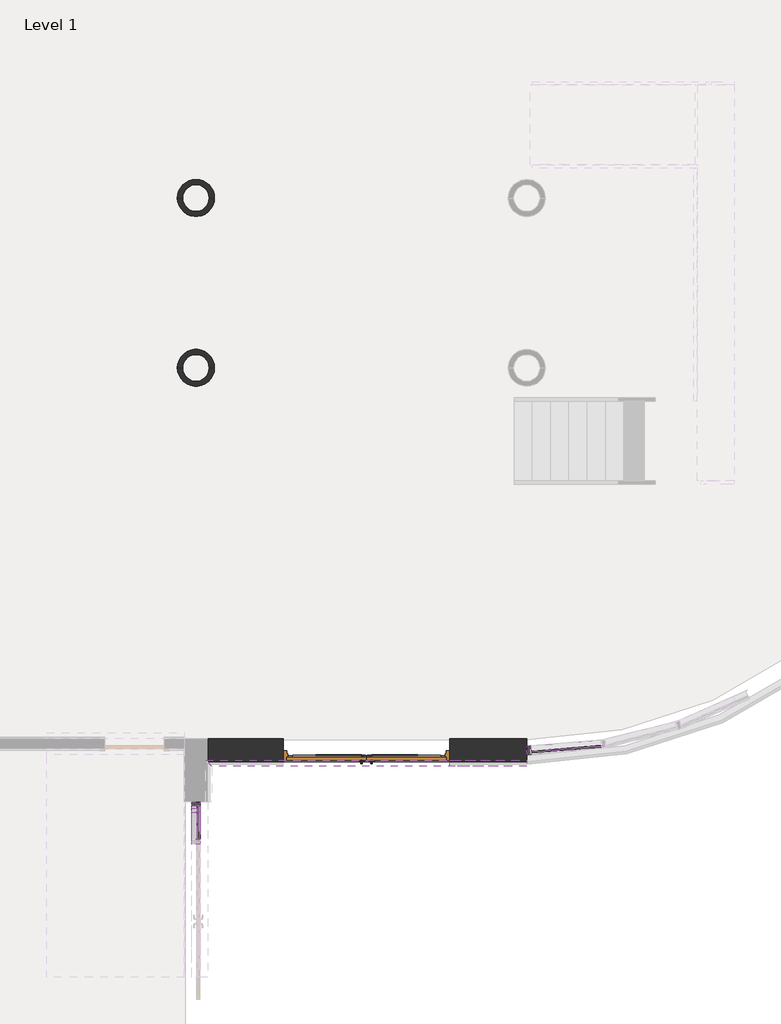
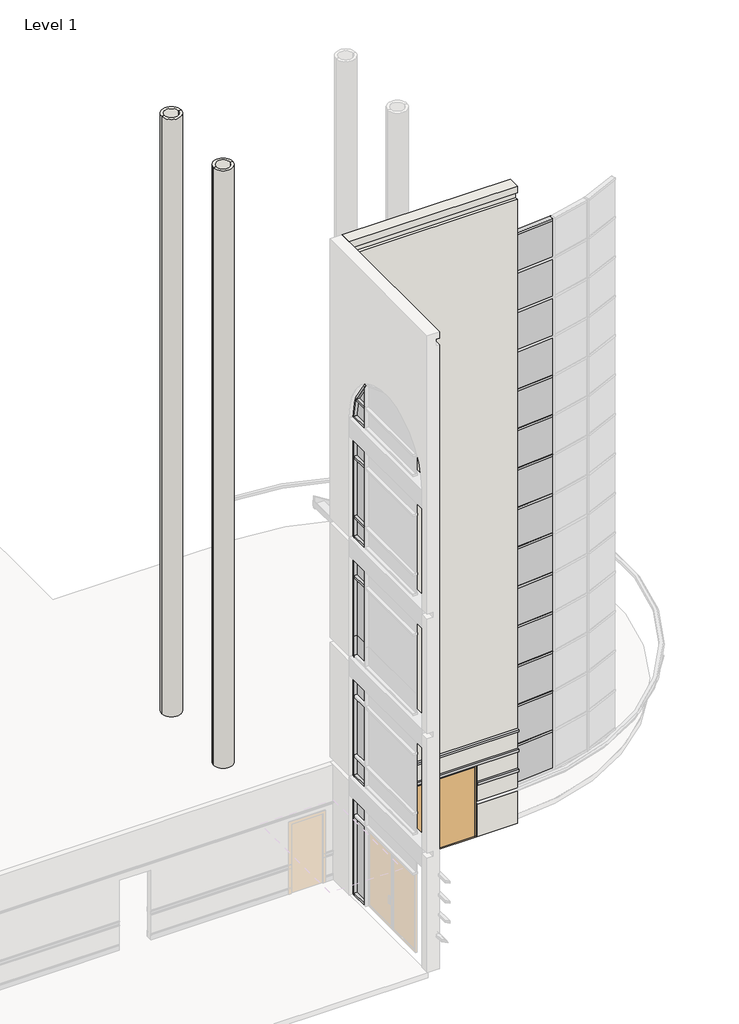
# One storey, part 4 of 20: 50 members, 27 plates, 5 walls, 3 proxies, 1 door.
"""IFC4 building model written with IfcOpenShell, lengths in millimetres."""

from ifc_helpers import new_model, si_unit, point, frame, frame_2d, origin, origin_with_axes, place, context, project, spatial, polyline, circle_curve, trimmed, segment, composite_curve, outline, extrude, faceted_brep, transform, mapped, element, save
from components import door_381a2cf9, member_6fd4d727, member_2e3765b8, member_e2a7e38a, member_ee409385, member_47a645d3, member_53d1b195, member_b7f7ac7a, member_94fbf6e3, member_aaa03826, member_dad99500, member_2fae0574, member_0b7646a3, system_panel_glazed_e4675ec4, system_panel_glazed_b699a21d, system_panel_glazed_302a988a, system_panel_glazed_4c725cf6, system_panel_glazed_f9269b4e, system_panel_glazed_1e7caf01, system_panel_glazed_6cb61a0e, system_panel_glazed_2dcc93e6, system_panel_glazed_8fb97314

model = new_model("IFC4")

# Units and contexts
model_context = context("Model", 3, world=origin())
ifc_project = project(units=[si_unit("LENGTHUNIT", "METRE", prefix="MILLI")], contexts=[model_context])

# Site, building, storey
site = spatial("IfcSite", under=ifc_project)
building = spatial("IfcBuilding", under=site)
storey = spatial("IfcBuildingStorey", under=building, Name="Level 1", Elevation=0.0)

# Proxies
placement = place(None, origin())
element("IfcBuildingElementProxy", 1, Name="Reveals", at=placement, inside=storey, context=model_context, shape_type="SweptSolid", body=[
    extrude(outline(polyline([(13127.8089721, -9887.6851681), (13035.7339721, -9795.6101681), (14220.0089721, -9795.6101681), (14220.0089721, -9887.6851681), (13127.8089721, -9887.6851681)])), frame((0.0, 0.0, 1625.6), z_axis=(0.0, 0.0, 1.0), x_axis=(1.0, 0.0, 0.0)), (0.0, 0.0, 1.0), 67.7333333),
    extrude(outline(polyline([(16760.0089721, -9887.6851681), (16760.0089721, -9795.6101681), (17937.9339721, -9795.6101681), (17937.9339721, -9887.6851681), (16760.0089721, -9887.6851681)])), frame((0.0, 0.0, 1625.6), z_axis=(0.0, 0.0, 1.0), x_axis=(1.0, 0.0, 0.0)), (0.0, 0.0, 1.0), 67.7333333),
])
element("IfcBuildingElementProxy", 2, Name="Reveals", at=placement, inside=storey, context=model_context, shape_type="SweptSolid", body=[
    extrude(outline(polyline([(13127.8089721, -9887.6851681), (13035.7339721, -9795.6101681), (17937.9339721, -9795.6101681), (17937.9339721, -9887.6851681), (13127.8089721, -9887.6851681)])), frame((0.0, 0.0, 2235.2), z_axis=(0.0, 0.0, 1.0), x_axis=(1.0, 0.0, 0.0)), (0.0, 0.0, 1.0), 67.7333333),
])
element("IfcBuildingElementProxy", 3, Name="Reveals", at=placement, inside=storey, context=model_context, shape_type="SweptSolid", body=[
    extrude(outline(polyline([(13127.8089721, -9887.6851681), (13035.7339721, -9795.6101681), (17937.9339721, -9795.6101681), (17937.9339721, -9887.6851681), (13127.8089721, -9887.6851681)])), frame((0.0, 0.0, 2844.8), z_axis=(0.0, 0.0, 1.0), x_axis=(1.0, 0.0, 0.0)), (0.0, 0.0, 1.0), 67.7333333),
])

# Door
door_shape = door_381a2cf9(model_context)
element("IfcDoor", 4, ObjectType="Door-Exterior-Double : 96\" x 84\"", at=placement, inside=storey, context=model_context, shape_type="MappedRepresentation", body=[
    mapped(door_shape, transform((15490.0089721, -9638.4476681, 0.0), x_axis=(1.0, 0.0, 0.0), y_axis=(0.0, 1.0, 0.0), z_axis=(0.0, 0.0, 1.0))),
])

# Members
member_shape = member_6fd4d727(model_context)
element("IfcMember", 5, ObjectType="Rectangular Mullion : 2.5\" x 5\" rectangular", at=placement, inside=storey, context=model_context, shape_type="MappedRepresentation", body=[
    mapped(member_shape, transform((18001.2170874, -9639.5538796, 17983.2), x_axis=(0.0, 0.0, 1.0), y_axis=(-0.08257934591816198, 0.9965844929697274, 0.0), z_axis=(-0.9965844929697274, -0.08257934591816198, 0.0))),
])
member_2_shape = member_2e3765b8(model_context)
element("IfcMember", 6, ObjectType="Rectangular Mullion : 2.5\" x 5\" rectangular", at=placement, inside=storey, context=model_context, shape_type="MappedRepresentation", body=[
    mapped(member_2_shape, transform((18001.2170874, -9639.5538796, 2298.7), x_axis=(0.0, 0.0, 1.0), y_axis=(-0.08257934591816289, 0.9965844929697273, 0.0), z_axis=(-0.9965844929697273, -0.08257934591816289, 0.0))),
])
element("IfcMember", 7, ObjectType="Rectangular Mullion : 2.5\" x 5\" rectangular", at=placement, inside=storey, context=model_context, shape_type="MappedRepresentation", body=[
    mapped(member_2_shape, transform((18001.2170874, -9639.5538796, 3505.2), x_axis=(0.0, 0.0, 1.0), y_axis=(-0.08257934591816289, 0.9965844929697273, 0.0), z_axis=(-0.9965844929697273, -0.08257934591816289, 0.0))),
])
element("IfcMember", 8, ObjectType="Rectangular Mullion : 2.5\" x 5\" rectangular", at=placement, inside=storey, context=model_context, shape_type="MappedRepresentation", body=[
    mapped(member_2_shape, transform((18001.2170874, -9639.5538796, 4711.7), x_axis=(0.0, 0.0, 1.0), y_axis=(-0.08257934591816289, 0.9965844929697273, 0.0), z_axis=(-0.9965844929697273, -0.08257934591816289, 0.0))),
])
element("IfcMember", 9, ObjectType="Rectangular Mullion : 2.5\" x 5\" rectangular", at=placement, inside=storey, context=model_context, shape_type="MappedRepresentation", body=[
    mapped(member_2_shape, transform((18001.2170874, -9639.5538796, 5918.2), x_axis=(0.0, 0.0, 1.0), y_axis=(-0.08257934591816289, 0.9965844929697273, 0.0), z_axis=(-0.9965844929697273, -0.08257934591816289, 0.0))),
])
element("IfcMember", 10, ObjectType="Rectangular Mullion : 2.5\" x 5\" rectangular", at=placement, inside=storey, context=model_context, shape_type="MappedRepresentation", body=[
    mapped(member_2_shape, transform((18001.2170874, -9639.5538796, 7124.7), x_axis=(0.0, 0.0, 1.0), y_axis=(-0.08257934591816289, 0.9965844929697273, 0.0), z_axis=(-0.9965844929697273, -0.08257934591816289, 0.0))),
])
element("IfcMember", 11, ObjectType="Rectangular Mullion : 2.5\" x 5\" rectangular", at=placement, inside=storey, context=model_context, shape_type="MappedRepresentation", body=[
    mapped(member_2_shape, transform((18001.2170874, -9639.5538796, 8331.2), x_axis=(0.0, 0.0, 1.0), y_axis=(-0.08257934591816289, 0.9965844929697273, 0.0), z_axis=(-0.9965844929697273, -0.08257934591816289, 0.0))),
])
element("IfcMember", 12, ObjectType="Rectangular Mullion : 2.5\" x 5\" rectangular", at=placement, inside=storey, context=model_context, shape_type="MappedRepresentation", body=[
    mapped(member_2_shape, transform((18001.2170874, -9639.5538796, 9537.7), x_axis=(0.0, 0.0, 1.0), y_axis=(-0.08257934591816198, 0.9965844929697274, 0.0), z_axis=(-0.9965844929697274, -0.08257934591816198, 0.0))),
])
element("IfcMember", 13, ObjectType="Rectangular Mullion : 2.5\" x 5\" rectangular", at=placement, inside=storey, context=model_context, shape_type="MappedRepresentation", body=[
    mapped(member_2_shape, transform((18001.2170874, -9639.5538796, 10744.2), x_axis=(0.0, 0.0, 1.0), y_axis=(-0.08257934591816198, 0.9965844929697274, 0.0), z_axis=(-0.9965844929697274, -0.08257934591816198, 0.0))),
])
element("IfcMember", 14, ObjectType="Rectangular Mullion : 2.5\" x 5\" rectangular", at=placement, inside=storey, context=model_context, shape_type="MappedRepresentation", body=[
    mapped(member_2_shape, transform((18001.2170874, -9639.5538796, 11950.7), x_axis=(0.0, 0.0, 1.0), y_axis=(-0.08257934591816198, 0.9965844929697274, 0.0), z_axis=(-0.9965844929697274, -0.08257934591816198, 0.0))),
])
element("IfcMember", 15, ObjectType="Rectangular Mullion : 2.5\" x 5\" rectangular", at=placement, inside=storey, context=model_context, shape_type="MappedRepresentation", body=[
    mapped(member_2_shape, transform((18001.2170874, -9639.5538796, 13157.2), x_axis=(0.0, 0.0, 1.0), y_axis=(-0.08257934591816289, 0.9965844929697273, 0.0), z_axis=(-0.9965844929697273, -0.08257934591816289, 0.0))),
])
member_3_shape = member_e2a7e38a(model_context)
element("IfcMember", 16, ObjectType="Rectangular Mullion : 2.5\" x 5\" rectangular", at=placement, inside=storey, context=model_context, shape_type="MappedRepresentation", body=[
    mapped(member_3_shape, transform((17937.9339721, -9644.7976681, 1092.2), x_axis=(-0.9965844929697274, -0.08257934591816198, 0.0), y_axis=(-0.08257934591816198, 0.9965844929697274, 0.0), z_axis=(0.0, 0.0, -1.0))),
])
element("IfcMember", 17, ObjectType="Rectangular Mullion : 2.5\" x 5\" rectangular", at=placement, inside=storey, context=model_context, shape_type="MappedRepresentation", body=[
    mapped(member_3_shape, transform((17937.9339721, -9644.7976681, 2298.7), x_axis=(-0.9965844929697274, -0.08257934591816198, 0.0), y_axis=(-0.08257934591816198, 0.9965844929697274, 0.0), z_axis=(0.0, 0.0, -1.0))),
])
element("IfcMember", 18, ObjectType="Rectangular Mullion : 2.5\" x 5\" rectangular", at=placement, inside=storey, context=model_context, shape_type="MappedRepresentation", body=[
    mapped(member_3_shape, transform((17937.9339721, -9644.7976681, 3505.2), x_axis=(-0.9965844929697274, -0.08257934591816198, 0.0), y_axis=(-0.08257934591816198, 0.9965844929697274, 0.0), z_axis=(0.0, 0.0, -1.0))),
])
element("IfcMember", 19, ObjectType="Rectangular Mullion : 2.5\" x 5\" rectangular", at=placement, inside=storey, context=model_context, shape_type="MappedRepresentation", body=[
    mapped(member_3_shape, transform((17937.9339721, -9644.7976681, 4711.7), x_axis=(-0.9965844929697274, -0.08257934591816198, 0.0), y_axis=(-0.08257934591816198, 0.9965844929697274, 0.0), z_axis=(0.0, 0.0, -1.0))),
])
element("IfcMember", 20, ObjectType="Rectangular Mullion : 2.5\" x 5\" rectangular", at=placement, inside=storey, context=model_context, shape_type="MappedRepresentation", body=[
    mapped(member_3_shape, transform((17937.9339721, -9644.7976681, 5918.2), x_axis=(-0.9965844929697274, -0.08257934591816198, 0.0), y_axis=(-0.08257934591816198, 0.9965844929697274, 0.0), z_axis=(0.0, 0.0, -1.0))),
])
element("IfcMember", 21, ObjectType="Rectangular Mullion : 2.5\" x 5\" rectangular", at=placement, inside=storey, context=model_context, shape_type="MappedRepresentation", body=[
    mapped(member_3_shape, transform((17937.9339721, -9644.7976681, 7124.7), x_axis=(-0.9965844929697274, -0.08257934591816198, 0.0), y_axis=(-0.08257934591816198, 0.9965844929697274, 0.0), z_axis=(0.0, 0.0, -1.0))),
])
element("IfcMember", 22, ObjectType="Rectangular Mullion : 2.5\" x 5\" rectangular", at=placement, inside=storey, context=model_context, shape_type="MappedRepresentation", body=[
    mapped(member_3_shape, transform((17937.9339721, -9644.7976681, 8331.2), x_axis=(-0.9965844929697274, -0.08257934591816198, 0.0), y_axis=(-0.08257934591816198, 0.9965844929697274, 0.0), z_axis=(0.0, 0.0, -1.0))),
])
element("IfcMember", 23, ObjectType="Rectangular Mullion : 2.5\" x 5\" rectangular", at=placement, inside=storey, context=model_context, shape_type="MappedRepresentation", body=[
    mapped(member_3_shape, transform((17937.9339721, -9644.7976681, 9537.7), x_axis=(-0.9965844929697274, -0.08257934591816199, 0.0), y_axis=(-0.08257934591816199, 0.9965844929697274, 0.0), z_axis=(0.0, 0.0, -1.0))),
])
element("IfcMember", 24, ObjectType="Rectangular Mullion : 2.5\" x 5\" rectangular", at=placement, inside=storey, context=model_context, shape_type="MappedRepresentation", body=[
    mapped(member_3_shape, transform((17937.9339721, -9644.7976681, 10744.2), x_axis=(-0.9965844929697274, -0.08257934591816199, 0.0), y_axis=(-0.08257934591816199, 0.9965844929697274, 0.0), z_axis=(0.0, 0.0, -1.0))),
])
element("IfcMember", 25, ObjectType="Rectangular Mullion : 2.5\" x 5\" rectangular", at=placement, inside=storey, context=model_context, shape_type="MappedRepresentation", body=[
    mapped(member_3_shape, transform((17937.9339721, -9644.7976681, 11950.7), x_axis=(-0.9965844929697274, -0.08257934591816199, 0.0), y_axis=(-0.08257934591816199, 0.9965844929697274, 0.0), z_axis=(0.0, 0.0, -1.0))),
])
element("IfcMember", 26, ObjectType="Rectangular Mullion : 2.5\" x 5\" rectangular", at=placement, inside=storey, context=model_context, shape_type="MappedRepresentation", body=[
    mapped(member_3_shape, transform((17937.9339721, -9644.7976681, 13157.2), x_axis=(-0.9965844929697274, -0.08257934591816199, 0.0), y_axis=(-0.08257934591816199, 0.9965844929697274, 0.0), z_axis=(0.0, 0.0, -1.0))),
])
element("IfcMember", 27, ObjectType="Rectangular Mullion : 2.5\" x 5\" rectangular", at=placement, inside=storey, context=model_context, shape_type="MappedRepresentation", body=[
    mapped(member_3_shape, transform((17937.9339721, -9644.7976681, 14363.7), x_axis=(-0.9965844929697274, -0.08257934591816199, 0.0), y_axis=(-0.08257934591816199, 0.9965844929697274, 0.0), z_axis=(0.0, 0.0, -1.0))),
])
element("IfcMember", 28, ObjectType="Rectangular Mullion : 2.5\" x 5\" rectangular", at=placement, inside=storey, context=model_context, shape_type="MappedRepresentation", body=[
    mapped(member_3_shape, transform((17937.9339721, -9644.7976681, 15570.2), x_axis=(-0.9965844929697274, -0.08257934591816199, 0.0), y_axis=(-0.08257934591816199, 0.9965844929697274, 0.0), z_axis=(0.0, 0.0, -1.0))),
])
element("IfcMember", 29, ObjectType="Rectangular Mullion : 2.5\" x 5\" rectangular", at=placement, inside=storey, context=model_context, shape_type="MappedRepresentation", body=[
    mapped(member_3_shape, transform((17937.9339721, -9644.7976681, 16776.7), x_axis=(-0.9965844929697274, -0.08257934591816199, 0.0), y_axis=(-0.08257934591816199, 0.9965844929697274, 0.0), z_axis=(0.0, 0.0, -1.0))),
])
member_4_shape = member_ee409385(model_context)
element("IfcMember", 30, ObjectType="Rectangular Mullion : 2.5\" x 5\" rectangular", at=placement, inside=storey, context=model_context, shape_type="MappedRepresentation", body=[
    mapped(member_4_shape, transform((12884.9214721, -10430.6101681, 2438.4), x_axis=(0.0, 1.0, 0.0), y_axis=(-1.0, 0.0, 0.0), z_axis=(0.0, 0.0, 1.0))),
])
member_5_shape = member_47a645d3(model_context)
element("IfcMember", 31, ObjectType="Rectangular Mullion : 2.5\" x 5\" rectangular", at=placement, inside=storey, context=model_context, shape_type="MappedRepresentation", body=[
    mapped(member_5_shape, transform((12884.9214721, -11008.4601681, 14630.4), x_axis=(0.0, 0.0, 1.0), y_axis=(-1.0, 0.0, 0.0), z_axis=(0.0, -1.0, 0.0))),
])
member_6_shape = member_53d1b195(model_context)
element("IfcMember", 32, ObjectType="Rectangular Mullion : 2.5\" x 5\" rectangular", at=placement, inside=storey, context=model_context, shape_type="MappedRepresentation", body=[
    mapped(member_6_shape, transform((12884.9214721, -11008.4601681, 15240.0), x_axis=(0.0, 0.0, 1.0), y_axis=(-1.0, 0.0, 0.0), z_axis=(0.0, -1.0, 0.0))),
])
member_7_shape = member_b7f7ac7a(model_context)
element("IfcMember", 33, ObjectType="Rectangular Mullion : 2.5\" x 5\" rectangular", at=placement, inside=storey, context=model_context, shape_type="MappedRepresentation", body=[
    mapped(member_7_shape, transform((12884.9214721, -10535.2009928, 15240.0), x_axis=(0.0, 0.9428090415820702, 0.33333333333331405), y_axis=(-1.0, 0.0, 0.0), z_axis=(0.0, -0.333333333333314, 0.9428090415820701))),
])
member_8_shape = member_94fbf6e3(model_context)
element("IfcMember", 34, ObjectType="Rectangular Mullion : 2.5\" x 5\" rectangular", at=placement, inside=storey, context=model_context, shape_type="MappedRepresentation", body=[
    mapped(member_8_shape, transform((12884.9214721, -11040.2101681, 15993.5070391), x_axis=(0.0, 0.6666666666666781, 0.7453559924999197), y_axis=(-1.0, 0.0, 0.0), z_axis=(0.0, -0.7453559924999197, 0.6666666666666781))),
])
member_9_shape = member_aaa03826(model_context)
element("IfcMember", 35, ObjectType="Rectangular Mullion : 2.5\" x 5\" rectangular", at=placement, inside=storey, context=model_context, shape_type="MappedRepresentation", body=[
    mapped(member_9_shape, transform((12884.9214721, -11008.4601681, 6705.6), x_axis=(0.0, 0.0, 1.0), y_axis=(-1.0, 0.0, 0.0), z_axis=(0.0, -1.0, 0.0))),
])
element("IfcMember", 36, ObjectType="Rectangular Mullion : 2.5\" x 5\" rectangular", at=placement, inside=storey, context=model_context, shape_type="MappedRepresentation", body=[
    mapped(member_9_shape, transform((12884.9214721, -11008.4601681, 3657.6), x_axis=(0.0, 0.0, 1.0), y_axis=(-1.0, 0.0, 0.0), z_axis=(0.0, -1.0, 0.0))),
])
element("IfcMember", 37, ObjectType="Rectangular Mullion : 2.5\" x 5\" rectangular", at=placement, inside=storey, context=model_context, shape_type="MappedRepresentation", body=[
    mapped(member_9_shape, transform((12884.9214721, -11008.4601681, 3048.0), x_axis=(0.0, 0.0, 1.0), y_axis=(-1.0, 0.0, 0.0), z_axis=(0.0, -1.0, 0.0))),
])
element("IfcMember", 38, ObjectType="Rectangular Mullion : 2.5\" x 5\" rectangular", at=placement, inside=storey, context=model_context, shape_type="MappedRepresentation", body=[
    mapped(member_9_shape, transform((12884.9214721, -11008.4601681, 9753.6), x_axis=(0.0, 0.0, 1.0), y_axis=(-1.0, 0.0, 0.0), z_axis=(0.0, -1.0, 0.0))),
])
element("IfcMember", 39, ObjectType="Rectangular Mullion : 2.5\" x 5\" rectangular", at=placement, inside=storey, context=model_context, shape_type="MappedRepresentation", body=[
    mapped(member_9_shape, transform((12884.9214721, -11008.4601681, 10363.2), x_axis=(0.0, 0.0, 1.0), y_axis=(-1.0, 0.0, 0.0), z_axis=(0.0, -1.0, 0.0))),
])
element("IfcMember", 40, ObjectType="Rectangular Mullion : 2.5\" x 5\" rectangular", at=placement, inside=storey, context=model_context, shape_type="MappedRepresentation", body=[
    mapped(member_9_shape, transform((12884.9214721, -11008.4601681, 10972.8), x_axis=(0.0, 0.0, 1.0), y_axis=(-1.0, 0.0, 0.0), z_axis=(0.0, -1.0, 0.0))),
])
element("IfcMember", 41, ObjectType="Rectangular Mullion : 2.5\" x 5\" rectangular", at=placement, inside=storey, context=model_context, shape_type="MappedRepresentation", body=[
    mapped(member_9_shape, transform((12884.9214721, -11008.4601681, 11582.4), x_axis=(0.0, 0.0, 1.0), y_axis=(-1.0, 0.0, 0.0), z_axis=(0.0, -1.0, 0.0))),
])
element("IfcMember", 42, ObjectType="Rectangular Mullion : 2.5\" x 5\" rectangular", at=placement, inside=storey, context=model_context, shape_type="MappedRepresentation", body=[
    mapped(member_9_shape, transform((12884.9214721, -11008.4601681, 13411.2), x_axis=(0.0, 0.0, 1.0), y_axis=(-1.0, 0.0, 0.0), z_axis=(0.0, -1.0, 0.0))),
])
element("IfcMember", 43, ObjectType="Rectangular Mullion : 2.5\" x 5\" rectangular", at=placement, inside=storey, context=model_context, shape_type="MappedRepresentation", body=[
    mapped(member_9_shape, transform((12884.9214721, -11008.4601681, 14020.8), x_axis=(0.0, 0.0, 1.0), y_axis=(-1.0, 0.0, 0.0), z_axis=(0.0, -1.0, 0.0))),
])
member_10_shape = member_dad99500(model_context)
element("IfcMember", 44, ObjectType="Rectangular Mullion : 2.5\" x 5\" rectangular", at=placement, inside=storey, context=model_context, shape_type="MappedRepresentation", body=[
    mapped(member_10_shape, transform((12884.9214721, -10430.6101681, 11582.4), x_axis=(0.0, 1.0, 0.0), y_axis=(-1.0, 0.0, 0.0), z_axis=(0.0, 0.0, 1.0))),
])
element("IfcMember", 45, ObjectType="Rectangular Mullion : 2.5\" x 5\" rectangular", at=placement, inside=storey, context=model_context, shape_type="MappedRepresentation", body=[
    mapped(member_10_shape, transform((12884.9214721, -10430.6101681, 4267.2), x_axis=(0.0, 1.0, 0.0), y_axis=(-1.0, 0.0, 0.0), z_axis=(0.0, 0.0, 1.0))),
])
member_11_shape = member_2fae0574(model_context)
element("IfcMember", 46, ObjectType="Rectangular Mullion : 2.5\" x 5\" rectangular", at=placement, inside=storey, context=model_context, shape_type="MappedRepresentation", body=[
    mapped(member_11_shape, transform((12884.9214721, -10430.6101681, 13411.2), x_axis=(0.0, 1.0, 0.0), y_axis=(-1.0, 0.0, 0.0), z_axis=(0.0, 0.0, 1.0))),
])
element("IfcMember", 47, ObjectType="Rectangular Mullion : 2.5\" x 5\" rectangular", at=placement, inside=storey, context=model_context, shape_type="MappedRepresentation", body=[
    mapped(member_11_shape, transform((12884.9214721, -10430.6101681, 6096.0), x_axis=(0.0, 1.0, 0.0), y_axis=(-1.0, 0.0, 0.0), z_axis=(0.0, 0.0, 1.0))),
])
element("IfcMember", 48, ObjectType="Rectangular Mullion : 2.5\" x 5\" rectangular", at=placement, inside=storey, context=model_context, shape_type="MappedRepresentation", body=[
    mapped(member_10_shape, transform((12884.9214721, -10430.6101681, 14052.55), x_axis=(0.0, 1.0, 0.0), y_axis=(-1.0, 0.0, 0.0), z_axis=(0.0, 0.0, 1.0))),
])
element("IfcMember", 49, ObjectType="Rectangular Mullion : 2.5\" x 5\" rectangular", at=placement, inside=storey, context=model_context, shape_type="MappedRepresentation", body=[
    mapped(member_10_shape, transform((12884.9214721, -10430.6101681, 10394.95), x_axis=(0.0, 1.0, 0.0), y_axis=(-1.0, 0.0, 0.0), z_axis=(0.0, 0.0, 1.0))),
])
element("IfcMember", 50, ObjectType="Rectangular Mullion : 2.5\" x 5\" rectangular", at=placement, inside=storey, context=model_context, shape_type="MappedRepresentation", body=[
    mapped(member_10_shape, transform((12884.9214721, -10430.6101681, 6737.35), x_axis=(0.0, 1.0, 0.0), y_axis=(-1.0, 0.0, 0.0), z_axis=(0.0, 0.0, 1.0))),
])
element("IfcMember", 51, ObjectType="Rectangular Mullion : 2.5\" x 5\" rectangular", at=placement, inside=storey, context=model_context, shape_type="MappedRepresentation", body=[
    mapped(member_10_shape, transform((12884.9214721, -10430.6101681, 3079.75), x_axis=(0.0, 1.0, 0.0), y_axis=(-1.0, 0.0, 0.0), z_axis=(0.0, 0.0, 1.0))),
])
element("IfcMember", 52, ObjectType="Rectangular Mullion : 2.5\" x 5\" rectangular", at=placement, inside=storey, context=model_context, shape_type="MappedRepresentation", body=[
    mapped(member_10_shape, transform((12884.9214721, -10430.6101681, 7924.8), x_axis=(0.0, 1.0, 0.0), y_axis=(-1.0, 0.0, 0.0), z_axis=(0.0, 0.0, 1.0))),
])
element("IfcMember", 53, ObjectType="Rectangular Mullion : 2.5\" x 5\" rectangular", at=placement, inside=storey, context=model_context, shape_type="MappedRepresentation", body=[
    mapped(member_11_shape, transform((12884.9214721, -10430.6101681, 9753.6), x_axis=(0.0, 1.0, 0.0), y_axis=(-1.0, 0.0, 0.0), z_axis=(0.0, 0.0, 1.0))),
])
member_12_shape = member_0b7646a3(model_context)
element("IfcMember", 54, ObjectType="Rectangular Mullion : 2.5\" x 5\" rectangular", at=placement, inside=storey, context=model_context, shape_type="MappedRepresentation", body=[
    mapped(member_12_shape, transform((12884.9214721, -10494.1101681, 0.0), x_axis=(0.0, 0.0, -1.0), y_axis=(-1.0, 0.0, 0.0), z_axis=(0.0, 1.0, 0.0))),
])

# Plates
system_panel_glazed_shape = system_panel_glazed_e4675ec4(model_context)
element("IfcPlate", 55, ObjectType="System Panel : Glazed", at=placement, inside=storey, context=model_context, shape_type="MappedRepresentation", body=[
    mapped(system_panel_glazed_shape, transform((18541.2741154, -9594.8034782, 1155.7), x_axis=(-0.9965844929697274, -0.08257934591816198, 0.0), y_axis=(0.08257934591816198, -0.9965844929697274, 0.0), z_axis=(0.0, 0.0, 1.0))),
])
element("IfcPlate", 56, ObjectType="System Panel : Glazed", at=placement, inside=storey, context=model_context, shape_type="MappedRepresentation", body=[
    mapped(system_panel_glazed_shape, transform((18541.2741154, -9594.8034782, 16808.45), x_axis=(-0.9965844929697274, -0.08257934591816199, 0.0), y_axis=(0.08257934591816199, -0.9965844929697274, 0.0), z_axis=(0.0, 0.0, 1.0))),
])
system_panel_glazed_2_shape = system_panel_glazed_b699a21d(model_context)
element("IfcPlate", 57, ObjectType="System Panel : Glazed", at=placement, inside=storey, context=model_context, shape_type="MappedRepresentation", body=[
    mapped(system_panel_glazed_2_shape, transform((18541.2741154, -9594.8034782, 2330.45), x_axis=(-0.9965844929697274, -0.08257934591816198, 0.0), y_axis=(0.08257934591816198, -0.9965844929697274, 0.0), z_axis=(0.0, 0.0, 1.0))),
])
element("IfcPlate", 58, ObjectType="System Panel : Glazed", at=placement, inside=storey, context=model_context, shape_type="MappedRepresentation", body=[
    mapped(system_panel_glazed_2_shape, transform((18541.2741154, -9594.8034782, 3536.95), x_axis=(-0.9965844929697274, -0.08257934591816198, 0.0), y_axis=(0.08257934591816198, -0.9965844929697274, 0.0), z_axis=(0.0, 0.0, 1.0))),
])
element("IfcPlate", 59, ObjectType="System Panel : Glazed", at=placement, inside=storey, context=model_context, shape_type="MappedRepresentation", body=[
    mapped(system_panel_glazed_2_shape, transform((18541.2741154, -9594.8034782, 4743.45), x_axis=(-0.9965844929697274, -0.08257934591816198, 0.0), y_axis=(0.08257934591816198, -0.9965844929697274, 0.0), z_axis=(0.0, 0.0, 1.0))),
])
element("IfcPlate", 60, ObjectType="System Panel : Glazed", at=placement, inside=storey, context=model_context, shape_type="MappedRepresentation", body=[
    mapped(system_panel_glazed_2_shape, transform((18541.2741154, -9594.8034782, 5949.95), x_axis=(-0.9965844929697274, -0.08257934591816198, 0.0), y_axis=(0.08257934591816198, -0.9965844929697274, 0.0), z_axis=(0.0, 0.0, 1.0))),
])
element("IfcPlate", 61, ObjectType="System Panel : Glazed", at=placement, inside=storey, context=model_context, shape_type="MappedRepresentation", body=[
    mapped(system_panel_glazed_2_shape, transform((18541.2741154, -9594.8034782, 7156.45), x_axis=(-0.9965844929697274, -0.08257934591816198, 0.0), y_axis=(0.08257934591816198, -0.9965844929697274, 0.0), z_axis=(0.0, 0.0, 1.0))),
])
element("IfcPlate", 62, ObjectType="System Panel : Glazed", at=placement, inside=storey, context=model_context, shape_type="MappedRepresentation", body=[
    mapped(system_panel_glazed_2_shape, transform((18541.2741154, -9594.8034782, 8362.95), x_axis=(-0.9965844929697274, -0.08257934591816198, 0.0), y_axis=(0.08257934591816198, -0.9965844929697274, 0.0), z_axis=(0.0, 0.0, 1.0))),
])
element("IfcPlate", 63, ObjectType="System Panel : Glazed", at=placement, inside=storey, context=model_context, shape_type="MappedRepresentation", body=[
    mapped(system_panel_glazed_2_shape, transform((18541.2741154, -9594.8034782, 9569.45), x_axis=(-0.9965844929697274, -0.08257934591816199, 0.0), y_axis=(0.08257934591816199, -0.9965844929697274, 0.0), z_axis=(0.0, 0.0, 1.0))),
])
element("IfcPlate", 64, ObjectType="System Panel : Glazed", at=placement, inside=storey, context=model_context, shape_type="MappedRepresentation", body=[
    mapped(system_panel_glazed_2_shape, transform((18541.2741154, -9594.8034782, 10775.95), x_axis=(-0.9965844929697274, -0.08257934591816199, 0.0), y_axis=(0.08257934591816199, -0.9965844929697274, 0.0), z_axis=(0.0, 0.0, 1.0))),
])
element("IfcPlate", 65, ObjectType="System Panel : Glazed", at=placement, inside=storey, context=model_context, shape_type="MappedRepresentation", body=[
    mapped(system_panel_glazed_2_shape, transform((18541.2741154, -9594.8034782, 11982.45), x_axis=(-0.9965844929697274, -0.08257934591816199, 0.0), y_axis=(0.08257934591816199, -0.9965844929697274, 0.0), z_axis=(0.0, 0.0, 1.0))),
])
element("IfcPlate", 66, ObjectType="System Panel : Glazed", at=placement, inside=storey, context=model_context, shape_type="MappedRepresentation", body=[
    mapped(system_panel_glazed_2_shape, transform((18541.2741154, -9594.8034782, 13188.95), x_axis=(-0.9965844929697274, -0.08257934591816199, 0.0), y_axis=(0.08257934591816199, -0.9965844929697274, 0.0), z_axis=(0.0, 0.0, 1.0))),
])
element("IfcPlate", 67, ObjectType="System Panel : Glazed", at=placement, inside=storey, context=model_context, shape_type="MappedRepresentation", body=[
    mapped(system_panel_glazed_2_shape, transform((18541.2741154, -9594.8034782, 14395.45), x_axis=(-0.9965844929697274, -0.08257934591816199, 0.0), y_axis=(0.08257934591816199, -0.9965844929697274, 0.0), z_axis=(0.0, 0.0, 1.0))),
])
element("IfcPlate", 68, ObjectType="System Panel : Glazed", at=placement, inside=storey, context=model_context, shape_type="MappedRepresentation", body=[
    mapped(system_panel_glazed_2_shape, transform((18541.2741154, -9594.8034782, 15601.95), x_axis=(-0.9965844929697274, -0.08257934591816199, 0.0), y_axis=(0.08257934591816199, -0.9965844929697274, 0.0), z_axis=(0.0, 0.0, 1.0))),
])
system_panel_glazed_3_shape = system_panel_glazed_302a988a(model_context)
element("IfcPlate", 69, ObjectType="System Panel : Glazed", at=placement, inside=storey, context=model_context, shape_type="MappedRepresentation", body=[
    mapped(system_panel_glazed_3_shape, transform((12884.9214721, -10751.4279404, 14662.15), x_axis=(0.0, -1.0, 0.0), y_axis=(1.0, 0.0, 0.0), z_axis=(0.0, 0.0, 1.0))),
])
system_panel_glazed_4_shape = system_panel_glazed_4c725cf6(model_context)
element("IfcPlate", 70, ObjectType="System Panel : Glazed", at=placement, inside=storey, context=model_context, shape_type="MappedRepresentation", body=[
    mapped(system_panel_glazed_4_shape, transform((12884.9214721, -10811.5979095, 15271.75), x_axis=(0.0, -1.0, 0.0), y_axis=(1.0, 0.0, 0.0), z_axis=(0.0, 0.0, 1.0))),
])
system_panel_glazed_5_shape = system_panel_glazed_f9269b4e(model_context)
element("IfcPlate", 71, ObjectType="System Panel : Glazed", at=placement, inside=storey, context=model_context, shape_type="MappedRepresentation", body=[
    mapped(system_panel_glazed_5_shape, transform((12884.9214721, -10751.2851681, 3689.35), x_axis=(0.0, -1.0, 0.0), y_axis=(1.0, 0.0, 0.0), z_axis=(0.0, 0.0, 1.0))),
])
element("IfcPlate", 72, ObjectType="System Panel : Glazed", at=placement, inside=storey, context=model_context, shape_type="MappedRepresentation", body=[
    mapped(system_panel_glazed_5_shape, transform((12884.9214721, -10751.2851681, 11004.55), x_axis=(0.0, -1.0, 0.0), y_axis=(1.0, 0.0, 0.0), z_axis=(0.0, 0.0, 1.0))),
])
element("IfcPlate", 73, ObjectType="System Panel : Glazed", at=placement, inside=storey, context=model_context, shape_type="MappedRepresentation", body=[
    mapped(system_panel_glazed_5_shape, transform((12884.9214721, -10751.2851681, 2470.15), x_axis=(0.0, -1.0, 0.0), y_axis=(1.0, 0.0, 0.0), z_axis=(0.0, 0.0, 1.0))),
])
element("IfcPlate", 74, ObjectType="System Panel : Glazed", at=placement, inside=storey, context=model_context, shape_type="MappedRepresentation", body=[
    mapped(system_panel_glazed_5_shape, transform((12884.9214721, -10751.2851681, 6127.75), x_axis=(0.0, -1.0, 0.0), y_axis=(1.0, 0.0, 0.0), z_axis=(0.0, 0.0, 1.0))),
])
element("IfcPlate", 75, ObjectType="System Panel : Glazed", at=placement, inside=storey, context=model_context, shape_type="MappedRepresentation", body=[
    mapped(system_panel_glazed_5_shape, transform((12884.9214721, -10751.2851681, 9785.35), x_axis=(0.0, -1.0, 0.0), y_axis=(1.0, 0.0, 0.0), z_axis=(0.0, 0.0, 1.0))),
])
element("IfcPlate", 76, ObjectType="System Panel : Glazed", at=placement, inside=storey, context=model_context, shape_type="MappedRepresentation", body=[
    mapped(system_panel_glazed_5_shape, transform((12884.9214721, -10751.2851681, 13442.95), x_axis=(0.0, -1.0, 0.0), y_axis=(1.0, 0.0, 0.0), z_axis=(0.0, 0.0, 1.0))),
])
system_panel_glazed_6_shape = system_panel_glazed_1e7caf01(model_context)
element("IfcPlate", 77, ObjectType="System Panel : Glazed", at=placement, inside=storey, context=model_context, shape_type="MappedRepresentation", body=[
    mapped(system_panel_glazed_6_shape, transform((12884.9214721, -10751.2851681, 4298.95), x_axis=(0.0, -1.0, 0.0), y_axis=(1.0, 0.0, 0.0), z_axis=(0.0, 0.0, 1.0))),
])
element("IfcPlate", 78, ObjectType="System Panel : Glazed", at=placement, inside=storey, context=model_context, shape_type="MappedRepresentation", body=[
    mapped(system_panel_glazed_6_shape, transform((12884.9214721, -10751.2851681, 11614.15), x_axis=(0.0, -1.0, 0.0), y_axis=(1.0, 0.0, 0.0), z_axis=(0.0, 0.0, 1.0))),
])
system_panel_glazed_7_shape = system_panel_glazed_6cb61a0e(model_context)
element("IfcPlate", 79, ObjectType="System Panel : Glazed", at=placement, inside=storey, context=model_context, shape_type="MappedRepresentation", body=[
    mapped(system_panel_glazed_7_shape, transform((12884.9214721, -10751.2851681, 7924.8), x_axis=(0.0, -1.0, 0.0), y_axis=(1.0, 0.0, 0.0), z_axis=(0.0, 0.0, 1.0))),
])
system_panel_glazed_8_shape = system_panel_glazed_2dcc93e6(model_context)
element("IfcPlate", 80, ObjectType="System Panel : Glazed", at=placement, inside=storey, context=model_context, shape_type="MappedRepresentation", body=[
    mapped(system_panel_glazed_8_shape, transform((12884.9214721, -10751.2851681, 7346.95), x_axis=(0.0, -1.0, 0.0), y_axis=(1.0, 0.0, 0.0), z_axis=(0.0, 0.0, 1.0))),
])
system_panel_glazed_9_shape = system_panel_glazed_8fb97314(model_context)
element("IfcPlate", 81, ObjectType="System Panel : Glazed", at=placement, inside=storey, context=model_context, shape_type="MappedRepresentation", body=[
    mapped(system_panel_glazed_9_shape, transform((12884.9214721, -10751.2851681, 63.5), x_axis=(0.0, -1.0, 0.0), y_axis=(1.0, 0.0, 0.0), z_axis=(0.0, 0.0, 1.0))),
])

# Walls
element("IfcWall", 82, ObjectType="Exterior - Brick and CMU on MTL. Stud", at=placement, inside=storey, context=model_context, shape_type="Brep", body=[
    faceted_brep([(17937.9339721, -9821.0101681, 19507.2), (13061.1339721, -9821.0101681, 19507.2), (13061.1339721, -9821.0101681, 19304.0), (17937.9339721, -9821.0101681, 19304.0), (13061.1339721, -9821.0101681, 2302.9333333), (17937.9339721, -9821.0101681, 2302.9333333), (17937.9339721, -9821.0101681, 2844.8), (13061.1339721, -9821.0101681, 2844.8), (14220.0089721, -9821.0101681, 2235.2), (13061.1339721, -9821.0101681, 2235.2), (13061.1339721, -9821.0101681, 1693.3333333), (14220.0089721, -9821.0101681, 1693.3333333), (13061.1339721, -9821.0101681, 2912.5333333), (17937.9339721, -9821.0101681, 2912.5333333), (17937.9339721, -9821.0101681, 17983.2), (17937.9339721, -9821.0101681, 19100.8), (13061.1339721, -9821.0101681, 19100.8), (16760.0089721, -9821.0101681, 0.0), (17937.9339721, -9821.0101681, 0.0), (17937.9339721, -9821.0101681, 1016.0), (16760.0089721, -9821.0101681, 1016.0), (13061.1339721, -9821.0101681, 0.0), (14220.0089721, -9821.0101681, 0.0), (14220.0089721, -9821.0101681, 1016.0), (13061.1339721, -9821.0101681, 1016.0), (16760.0089721, -9821.0101681, 2235.2), (16760.0089721, -9821.0101681, 1693.3333333), (17937.9339721, -9821.0101681, 1693.3333333), (17937.9339721, -9821.0101681, 2235.2), (17937.9339721, -9821.0101681, 1625.6), (16760.0089721, -9821.0101681, 1625.6), (16760.0089721, -9821.0101681, 1085.85), (17937.9339721, -9821.0101681, 1085.85), (17937.9339721, -9821.0101681, 1092.2), (14220.0089721, -9821.0101681, 1625.6), (13061.1339721, -9821.0101681, 1625.6), (13061.1339721, -9821.0101681, 1085.85), (14220.0089721, -9821.0101681, 1085.85), (13061.1339721, -9468.5851681, 19507.2), (17937.9339721, -9468.5851681, 19507.2), (17937.9339721, -9468.5851681, 17983.2), (17937.9339721, -9468.5851681, 10972.8), (13061.1339721, -9468.5851681, 10972.8), (17937.9339721, -9468.5851681, 0.0), (16760.0089721, -9468.5851681, 0.0), (16760.0089721, -9468.5851681, 2235.2), (14220.0089721, -9468.5851681, 2235.2), (14220.0089721, -9468.5851681, 0.0), (13061.1339721, -9468.5851681, 0.0), (13061.1339721, -9468.5851681, 3505.2), (17937.9339721, -9468.5851681, 3505.2), (17937.9339721, -9468.5851681, 1092.2), (17937.9339721, -9468.5851681, 3657.6), (13061.1339721, -9468.5851681, 3657.6), (13061.1339721, -9468.5851681, 7162.8), (17937.9339721, -9468.5851681, 7162.8), (17937.9339721, -9468.5851681, 7315.2), (13061.1339721, -9468.5851681, 7315.2), (13061.1339721, -9468.5851681, 10820.4), (17937.9339721, -9468.5851681, 10820.4), (17937.9339721, -9728.9351681, 19304.0), (17937.9339721, -9728.9351681, 19100.8), (17937.9339721, -9795.6101681, 2912.5333333), (17937.9339721, -9795.6101681, 2844.8), (17937.9339721, -9795.6101681, 2302.9333333), (17937.9339721, -9795.6101681, 2235.2), (17937.9339721, -9795.6101681, 1693.3333333), (17937.9339721, -9795.6101681, 1625.6), (17937.9339721, -9728.9351681, 1085.85), (17937.9339721, -9728.9351681, 1016.0), (17937.9339721, -9728.9351681, 0.0), (17937.9339721, -9633.6851681, 3505.2), (17937.9339721, -9633.6851681, 3657.6), (17937.9339721, -9633.6851681, 7162.8), (17937.9339721, -9633.6851681, 7315.2), (17937.9339721, -9633.6851681, 10820.4), (17937.9339721, -9633.6851681, 10972.8), (16760.0089721, -9728.9351681, 0.0), (13061.1339721, -9728.9351681, 0.0), (14220.0089721, -9728.9351681, 0.0), (14220.0089721, -9795.6101681, 1693.3333333), (13061.1339721, -9795.6101681, 1693.3333333), (13061.1339721, -9795.6101681, 1625.6), (14220.0089721, -9795.6101681, 1625.6), (13061.1339721, -9795.6101681, 2302.9333333), (13061.1339721, -9795.6101681, 2235.2), (14220.0089721, -9795.6101681, 2235.2), (16760.0089721, -9795.6101681, 2235.2), (13061.1339721, -9795.6101681, 2912.5333333), (13061.1339721, -9795.6101681, 2844.8), (14220.0089721, -9728.9351681, 1085.85), (13061.1339721, -9728.9351681, 1085.85), (13061.1339721, -9728.9351681, 1016.0), (14220.0089721, -9728.9351681, 1016.0), (13061.1339721, -9728.9351681, 19304.0), (13061.1339721, -9728.9351681, 19100.8), (16760.0089721, -9728.9351681, 1016.0), (16760.0089721, -9728.9351681, 1085.85), (16760.0089721, -9795.6101681, 1625.6), (16760.0089721, -9795.6101681, 1693.3333333), (13061.1339721, -9633.6851681, 10972.8), (13061.1339721, -9633.6851681, 10820.4), (13061.1339721, -9633.6851681, 7315.2), (13061.1339721, -9633.6851681, 7162.8), (13061.1339721, -9633.6851681, 3657.6), (13061.1339721, -9633.6851681, 3505.2)], [[[0, 1, 2, 3]], [[4, 5, 6, 7]], [[8, 9, 10, 11]], [[12, 13, 14, 15, 16]], [[17, 18, 19, 20]], [[21, 22, 23, 24]], [[25, 26, 27, 28]], [[29, 30, 31, 32, 33]], [[34, 35, 36, 37]], [[38, 39, 40, 41, 42]], [[43, 44, 45, 46, 47, 48, 49, 50, 51]], [[52, 53, 54, 55]], [[56, 57, 58, 59]], [[39, 0, 3, 60, 61, 15, 14, 13, 62, 63, 6, 5, 64, 65, 28, 27, 66, 67, 29, 33, 32, 68, 69, 19, 18, 70, 43, 51, 50, 71, 72, 52, 55, 73, 74, 56, 59, 75, 76, 41, 40]], [[1, 0, 39, 38]], [[43, 70, 77, 44]], [[78, 48, 47, 79]], [[80, 81, 82, 83]], [[65, 64, 84, 85, 86, 87]], [[63, 62, 88, 89]], [[90, 91, 92, 93]], [[61, 60, 94, 95]], [[64, 5, 4, 84]], [[28, 65, 87, 25]], [[9, 8, 86, 85]], [[62, 13, 12, 88]], [[6, 63, 89, 7]], [[15, 61, 95, 16]], [[60, 3, 2, 94]], [[70, 18, 17, 77]], [[21, 78, 79, 22]], [[45, 44, 77, 17, 20, 96, 97, 31, 30, 98, 99, 26, 25, 87]], [[46, 45, 87, 86]], [[47, 46, 86, 8, 11, 80, 83, 34, 37, 90, 93, 23, 22, 79]], [[66, 99, 98, 67]], [[67, 98, 30, 29]], [[99, 66, 27, 26]], [[83, 82, 35, 34]], [[81, 80, 11, 10]], [[68, 97, 96, 69]], [[69, 96, 20, 19]], [[97, 68, 32, 31]], [[93, 92, 24, 23]], [[91, 90, 37, 36]], [[1, 38, 42, 100, 101, 58, 57, 102, 103, 54, 53, 104, 105, 49, 48, 78, 21, 24, 92, 91, 36, 35, 82, 81, 10, 9, 85, 84, 4, 7, 89, 88, 12, 16, 95, 94, 2]], [[50, 49, 105, 71]], [[53, 52, 72, 104]], [[72, 71, 105, 104]], [[55, 54, 103, 73]], [[57, 56, 74, 102]], [[74, 73, 103, 102]], [[101, 75, 59, 58]], [[76, 100, 42, 41]], [[75, 101, 100, 76]]]),
])
element("IfcWall", 83, ObjectType="Interior - 3 1/8\" Partition (1-hr)", at=placement, inside=storey, context=model_context, shape_type="SweptSolid", body=[
    extrude(outline(composite_curve([segment(polyline([(12681.7214721, -1208.8226681), (12602.3464721, -1208.8226681)]), True, "CONTINUOUS"), segment(trimmed(circle_curve(frame_2d((12884.9214721, -1208.8226681)), 282.575), [point((12602.3464721, -1208.8226681))], [point((13167.4964721, -1208.8226681))], False, "CARTESIAN"), True, "CONTINUOUS"), segment(polyline([(13167.4964721, -1208.8226681), (13088.1214721, -1208.8226681)]), True, "CONTINUOUS"), segment(trimmed(circle_curve(frame_2d((12884.9214721, -1208.8226681)), 203.2), [point((13088.1214721, -1208.8226681))], [point((12681.7214721, -1208.8226681))], True, "CARTESIAN"), True, "CONTINUOUS")], self_intersect=False)), origin_with_axes(), (0.0, 0.0, 1.0), 18288.0),
])
element("IfcWall", 84, ObjectType="Interior - 3 1/8\" Partition (1-hr)", at=placement, inside=storey, context=model_context, shape_type="SweptSolid", body=[
    extrude(outline(composite_curve([segment(polyline([(13088.1214721, -1208.8226681), (13167.4964721, -1208.8226681)]), True, "CONTINUOUS"), segment(trimmed(circle_curve(frame_2d((12884.9214721, -1208.8226681)), 282.575), [point((13167.4964721, -1208.8226681))], [point((12602.3464721, -1208.8226681))], False, "CARTESIAN"), True, "CONTINUOUS"), segment(polyline([(12602.3464721, -1208.8226681), (12681.7214721, -1208.8226681)]), True, "CONTINUOUS"), segment(trimmed(circle_curve(frame_2d((12884.9214721, -1208.8226681)), 203.2), [point((12681.7214721, -1208.8226681))], [point((13088.1214721, -1208.8226681))], True, "CARTESIAN"), True, "CONTINUOUS")], self_intersect=False)), origin_with_axes(), (0.0, 0.0, 1.0), 18288.0),
])
element("IfcWall", 85, ObjectType="Interior - 3 1/8\" Partition (1-hr)", at=placement, inside=storey, context=model_context, shape_type="SweptSolid", body=[
    extrude(outline(composite_curve([segment(polyline([(12681.7214721, -3802.7976681), (12602.3464721, -3802.7976681)]), True, "CONTINUOUS"), segment(trimmed(circle_curve(frame_2d((12884.9214721, -3802.7976681)), 282.575), [point((12602.3464721, -3802.7976681))], [point((13167.4964721, -3802.7976681))], False, "CARTESIAN"), True, "CONTINUOUS"), segment(polyline([(13167.4964721, -3802.7976681), (13088.1214721, -3802.7976681)]), True, "CONTINUOUS"), segment(trimmed(circle_curve(frame_2d((12884.9214721, -3802.7976681)), 203.2), [point((13088.1214721, -3802.7976681))], [point((12681.7214721, -3802.7976681))], True, "CARTESIAN"), True, "CONTINUOUS")], self_intersect=False)), origin_with_axes(), (0.0, 0.0, 1.0), 18288.0),
])
element("IfcWall", 86, ObjectType="Interior - 3 1/8\" Partition (1-hr)", at=placement, inside=storey, context=model_context, shape_type="SweptSolid", body=[
    extrude(outline(composite_curve([segment(polyline([(13088.1214721, -3802.7976681), (13167.4964721, -3802.7976681)]), True, "CONTINUOUS"), segment(trimmed(circle_curve(frame_2d((12884.9214721, -3802.7976681)), 282.575), [point((13167.4964721, -3802.7976681))], [point((12602.3464721, -3802.7976681))], False, "CARTESIAN"), True, "CONTINUOUS"), segment(polyline([(12602.3464721, -3802.7976681), (12681.7214721, -3802.7976681)]), True, "CONTINUOUS"), segment(trimmed(circle_curve(frame_2d((12884.9214721, -3802.7976681)), 203.2), [point((12681.7214721, -3802.7976681))], [point((13088.1214721, -3802.7976681))], True, "CARTESIAN"), True, "CONTINUOUS")], self_intersect=False)), origin_with_axes(), (0.0, 0.0, 1.0), 18288.0),
])

save(model, "model.ifc")
